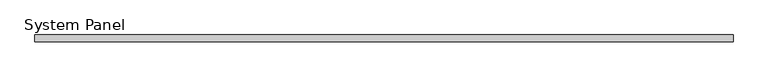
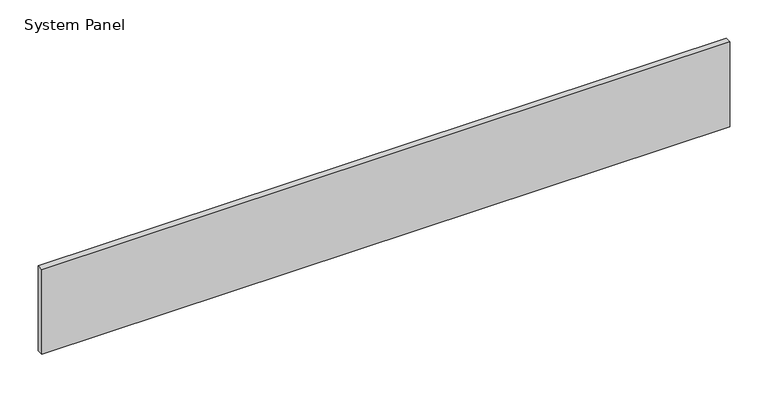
"""IFC4 building model written with IfcOpenShell, lengths in millimetres: plate geometry, System Panel : VACÍO."""

from ifc_helpers import new_model, si_unit, origin, origin_with_axes, place, context, project, spatial, polyline, outline, extrude, source, transform, mapped, element, save


def system_panel_921cbf43(model_context):
    return source(origin(), model_context, "Body", "SweptSolid", [
        extrude(outline(polyline([(522.1249907, -5.0), (-522.1249907, -5.0), (-522.1249907, 5.0), (522.1249907, 5.0), (522.1249907, -5.0)])), origin_with_axes(), (0.0, 0.0, 1.0), 136.0),
    ])


if __name__ == "__main__":
    model = new_model("IFC4")
    model_context = context("Model", 3, world=origin())
    ifc_project = project(units=[si_unit("LENGTHUNIT", "METRE", prefix="MILLI")], contexts=[model_context])
    site = spatial("IfcSite", under=ifc_project)
    building = spatial("IfcBuilding", under=site)
    placement = place(None, origin())
    system_panel_shape = system_panel_921cbf43(model_context)
    element("IfcPlate", 1, ObjectType="System Panel : VACÍO", at=placement, inside=building, context=model_context, shape_type="MappedRepresentation", body=[
        mapped(system_panel_shape, transform((0.0, 0.0, 0.0), x_axis=(1.0, 0.0, 0.0), y_axis=(0.0, 1.0, 0.0), z_axis=(0.0, 0.0, 1.0))),
    ])
    save(model, "model.ifc")
